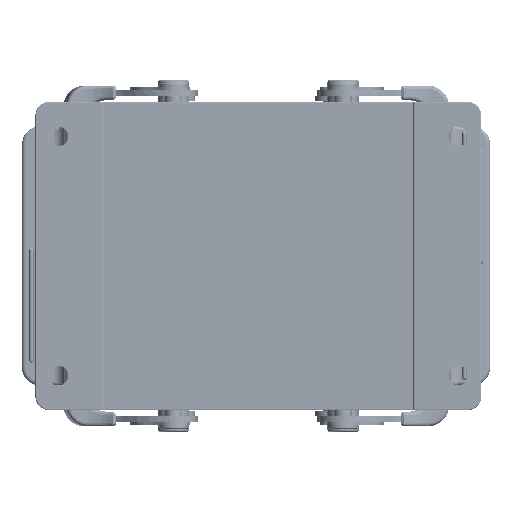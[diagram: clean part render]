
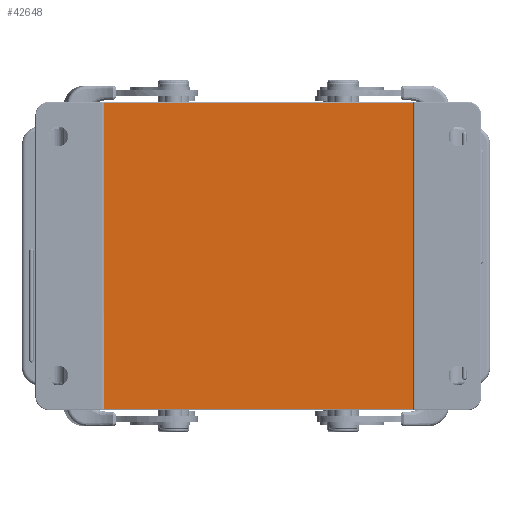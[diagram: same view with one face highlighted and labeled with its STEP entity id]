
A CAD part, front view. The second image highlights one B-rep face of the part: STEP entity #42648.
In plain terms, the highlighted planar face has unit normal (0, -1, 0) as drawn and (0, 0, -1) by its records, which use the part's own axes.
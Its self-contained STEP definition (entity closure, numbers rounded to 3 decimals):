
#21288 = DIRECTION ( 'NONE',  ( 1., 0., 0. ) ) ;
#27124 = VECTOR ( 'NONE', #46810, 1000. ) ;
#41431 = ORIENTED_EDGE ( 'NONE', *, *, #96172, .F. ) ;
#42648 = ADVANCED_FACE ( 'NONE', ( #293090 ), #226960, .F. ) ;
#46810 = DIRECTION ( 'NONE',  ( 0., 1., 0. ) ) ;
#48296 = CARTESIAN_POINT ( 'NONE',  ( 105.7, 44.339, -86.1 ) ) ;
#50834 = CARTESIAN_POINT ( 'NONE',  ( 19.3, 1.412, -86.1 ) ) ;
#54852 = LINE ( 'NONE', #71519, #223150 ) ;
#56301 = AXIS2_PLACEMENT_3D ( 'NONE', #267510, #61980, #21288 ) ;
#61980 = DIRECTION ( 'NONE',  ( 0., 0., 1. ) ) ;
#71519 = CARTESIAN_POINT ( 'NONE',  ( 62.5, 87.266, -86.1 ) ) ;
#79258 = ORIENTED_EDGE ( 'NONE', *, *, #188473, .F. ) ;
#79390 = ORIENTED_EDGE ( 'NONE', *, *, #188998, .F. ) ;
#87716 = VECTOR ( 'NONE', #174211, 1000. ) ;
#92898 = ORIENTED_EDGE ( 'NONE', *, *, #189713, .F. ) ;
#95398 = CARTESIAN_POINT ( 'NONE',  ( 19.3, 87.266, -86.1 ) ) ;
#96172 = EDGE_CURVE ( 'NONE', #106223, #279385, #238743, .T. ) ;
#106223 = VERTEX_POINT ( 'NONE', #50834 ) ;
#117994 = DIRECTION ( 'NONE',  ( -1., 0., 0. ) ) ;
#127887 = LINE ( 'NONE', #147514, #207458 ) ;
#145298 = VERTEX_POINT ( 'NONE', #168932 ) ;
#147514 = CARTESIAN_POINT ( 'NONE',  ( 19.3, 44.339, -86.1 ) ) ;
#161284 = VERTEX_POINT ( 'NONE', #95398 ) ;
#168932 = CARTESIAN_POINT ( 'NONE',  ( 105.7, 87.266, -86.1 ) ) ;
#174211 = DIRECTION ( 'NONE',  ( 1., 0., 0. ) ) ;
#185883 = EDGE_LOOP ( 'NONE', ( #79390, #92898, #41431, #79258 ) ) ;
#188473 = EDGE_CURVE ( 'NONE', #161284, #106223, #127887, .T. ) ;
#188998 = EDGE_CURVE ( 'NONE', #145298, #161284, #54852, .T. ) ;
#189713 = EDGE_CURVE ( 'NONE', #279385, #145298, #252345, .T. ) ;
#207458 = VECTOR ( 'NONE', #288458, 1000. ) ;
#217704 = CARTESIAN_POINT ( 'NONE',  ( 62.5, 1.412, -86.1 ) ) ;
#223150 = VECTOR ( 'NONE', #117994, 1000. ) ;
#226960 = PLANE ( 'NONE',  #56301 ) ;
#238743 = LINE ( 'NONE', #217704, #87716 ) ;
#252345 = LINE ( 'NONE', #48296, #27124 ) ;
#252758 = CARTESIAN_POINT ( 'NONE',  ( 105.7, 1.412, -86.1 ) ) ;
#267510 = CARTESIAN_POINT ( 'NONE',  ( 62.5, 44.339, -86.1 ) ) ;
#279385 = VERTEX_POINT ( 'NONE', #252758 ) ;
#288458 = DIRECTION ( 'NONE',  ( 0., -1., 0. ) ) ;
#293090 = FACE_OUTER_BOUND ( 'NONE', #185883, .T. ) ;
